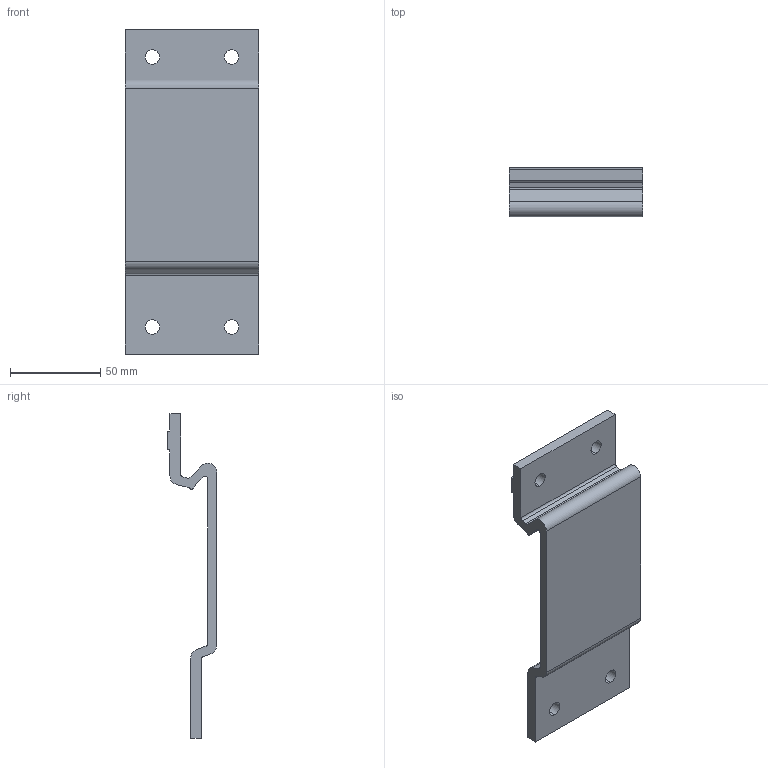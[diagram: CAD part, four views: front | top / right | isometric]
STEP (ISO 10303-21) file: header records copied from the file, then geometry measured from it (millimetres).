
FILE_DESCRIPTION (( 'STEP AP214' ), '1' );
FILE_NAME ('FAVBS 88S.step', '2017-04-05T08:00:36', ( '' ), ( '' ), 'SwSTEP 2.0', 'SolidWorks 2015', '' );
FILE_SCHEMA (( 'AUTOMOTIVE_DESIGN' ));
Length unit declared in the file: millimetre
Products named in the file (1): FAVBS 88S
Bounding box: 74 x 27.5 x 180 mm (x, y, z)
Volume: 85751.8 mm3; surface area: 35202.4 mm2
Topology: 1 solids, 1 shells, 41 faces, 117 edges, 78 vertices
Faces by surface type: plane 22, cylinder 19
Entity records: 1399 total; most frequent: DIRECTION 239, CARTESIAN_POINT 237, ORIENTED_EDGE 234, EDGE_CURVE 117, AXIS2_PLACEMENT_3D 80, VECTOR 79, LINE 79, VERTEX_POINT 78
